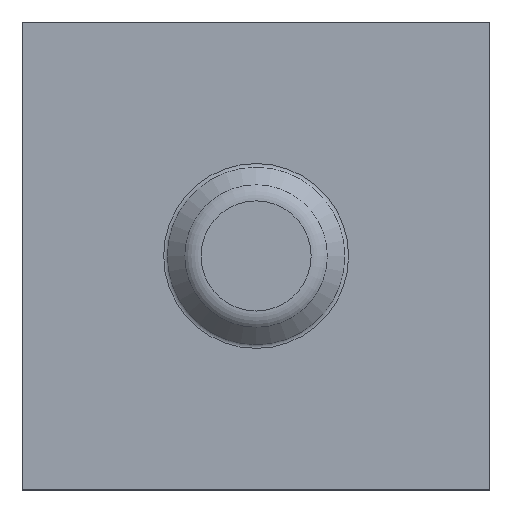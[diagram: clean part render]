
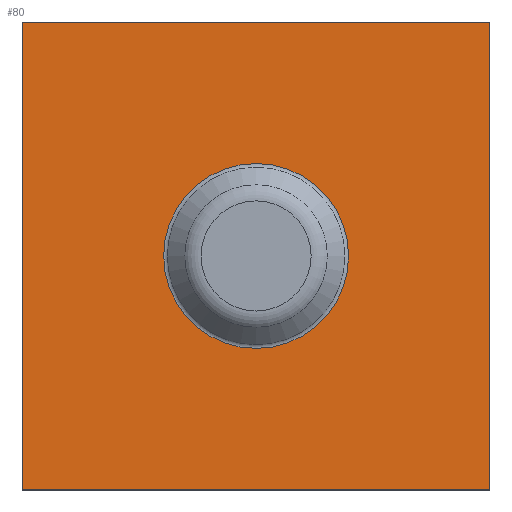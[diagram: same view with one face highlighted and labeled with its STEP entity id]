
A CAD part, top view. The second image highlights one B-rep face of the part: STEP entity #80.
In plain terms, the highlighted planar face has unit normal (0, 0, 1).
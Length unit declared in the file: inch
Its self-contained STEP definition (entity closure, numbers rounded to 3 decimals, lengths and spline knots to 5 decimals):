
#80=ADVANCED_FACE('',(#101,#102),#103,.T.);
#101=FACE_OUTER_BOUND('',#137,.T.);
#102=FACE_BOUND('',#138,.T.);
#103=PLANE('',#139);
#137=EDGE_LOOP('',(#198,#199,#200,#201));
#138=EDGE_LOOP('',(#202));
#139=AXIS2_PLACEMENT_3D('',#203,#204,#205);
#198=ORIENTED_EDGE('',*,*,#252,.T.);
#199=ORIENTED_EDGE('',*,*,#249,.T.);
#200=ORIENTED_EDGE('',*,*,#246,.T.);
#201=ORIENTED_EDGE('',*,*,#255,.T.);
#202=ORIENTED_EDGE('',*,*,#257,.F.);
#203=CARTESIAN_POINT('',(3.4138,-5.175,0.124));
#204=DIRECTION('',(0.,0.0,1.0));
#205=DIRECTION('',(0.0,-1.0,0.0));
#246=EDGE_CURVE('',#269,#267,#270,.T.);
#249=EDGE_CURVE('',#274,#269,#275,.T.);
#252=EDGE_CURVE('',#279,#274,#280,.T.);
#255=EDGE_CURVE('',#267,#279,#283,.T.);
#257=EDGE_CURVE('',#286,#286,#287,.T.);
#267=VERTEX_POINT('',#304);
#269=VERTEX_POINT('',#307);
#270=LINE('',#308,#309);
#274=VERTEX_POINT('',#315);
#275=LINE('',#316,#317);
#279=VERTEX_POINT('',#323);
#280=LINE('',#324,#325);
#283=LINE('',#330,#331);
#286=VERTEX_POINT('',#334);
#287=CIRCLE('',#335,0.39521);
#304=CARTESIAN_POINT('',(6.4384,3.37964,0.124));
#307=CARTESIAN_POINT('',(4.43837,3.37964,0.124));
#308=CARTESIAN_POINT('',(4.43934,3.37964,0.124));
#309=VECTOR('',#350,1.0);
#315=CARTESIAN_POINT('',(4.43837,5.38035,0.124));
#316=CARTESIAN_POINT('',(4.43837,-0.41375,0.124));
#317=VECTOR('',#353,1.0);
#323=CARTESIAN_POINT('',(6.4384,5.38035,0.124));
#324=CARTESIAN_POINT('',(4.43934,5.38035,0.124));
#325=VECTOR('',#356,1.0);
#330=CARTESIAN_POINT('',(6.4384,-0.41375,0.124));
#331=VECTOR('',#359,1.0);
#334=CARTESIAN_POINT('',(5.04359,4.38,0.124));
#335=AXIS2_PLACEMENT_3D('',#363,#364,#365);
#350=DIRECTION('',(1.0,0.0,0.));
#353=DIRECTION('',(0.0,-1.0,0.0));
#356=DIRECTION('',(-1.0,0.0,0.));
#359=DIRECTION('',(0.0,1.0,0.0));
#363=CARTESIAN_POINT('',(5.4388,4.38,0.124));
#364=DIRECTION('',(0.,0.0,1.0));
#365=DIRECTION('',(-1.0,0.0,0.));
